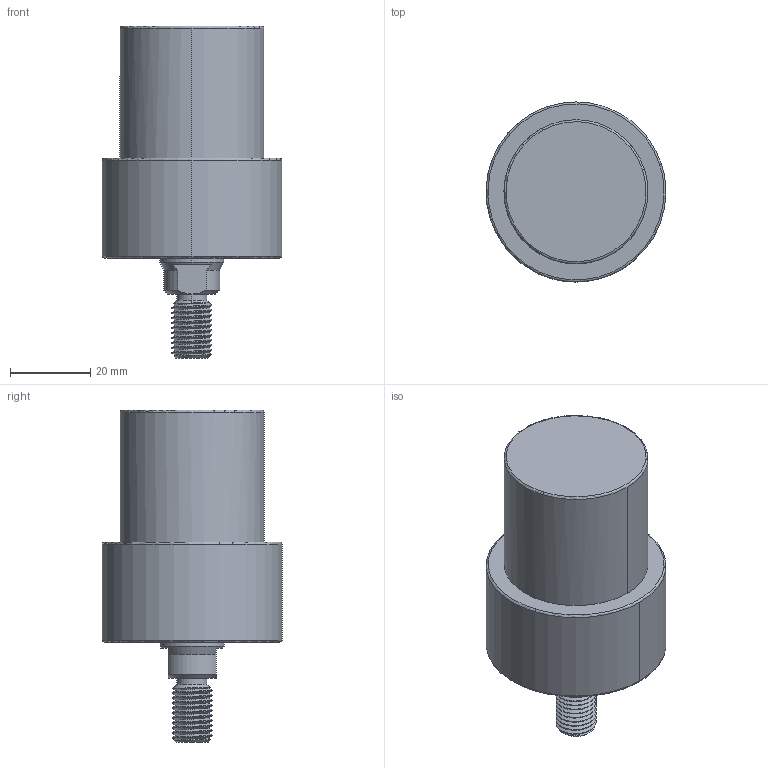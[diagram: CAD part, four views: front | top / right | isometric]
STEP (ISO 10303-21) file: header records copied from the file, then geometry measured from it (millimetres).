
FILE_DESCRIPTION((' '),'2;1');
FILE_NAME( 'TLLU-036GT-025.STEP.stp', '2025-10-24T16:37:06', (' '), ('--- Datakit www.datakit.com---'), ' Datakit CrossCadWare V2024.1 Dec 21 2023', 'Mastercam 2025', ' ');
FILE_SCHEMA(('AUTOMOTIVE_DESIGN { 1 0 10303 214 1 1 1 1 }'));
Length unit declared in the file: millimetre
Products named in the file (1): TLLU-036GT-025
Bounding box: 44.99 x 45 x 83 mm (x, y, z)
Volume: 75127.9 mm3; surface area: 12086.5 mm2
Topology: 1 solids, 1 shells, 88 faces, 292 edges, 207 vertices
Faces by surface type: cylinder 43, cone 26, plane 11, torus 6, bspline 2
Entity records: 8108 total; most frequent: CARTESIAN_POINT 5643, ORIENTED_EDGE 568, DIRECTION 462, EDGE_CURVE 284, VERTEX_POINT 207, AXIS2_PLACEMENT_3D 196, CIRCLE 109, B_SPLINE_CURVE_WITH_KNOTS 105
